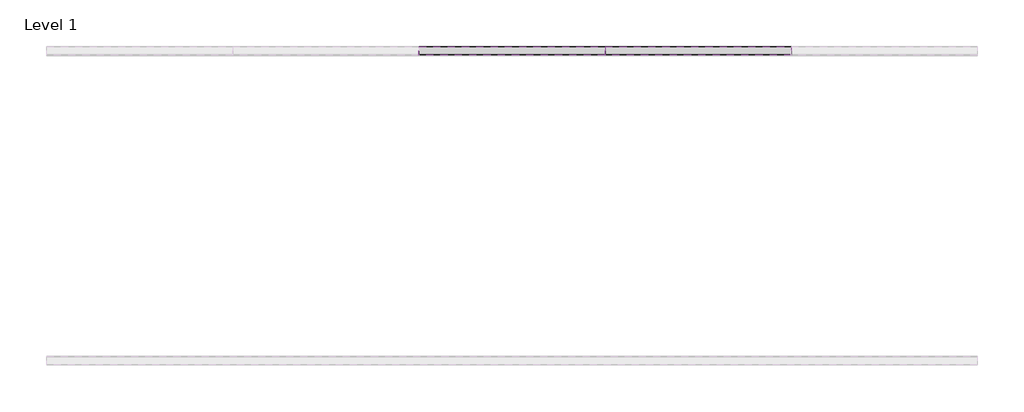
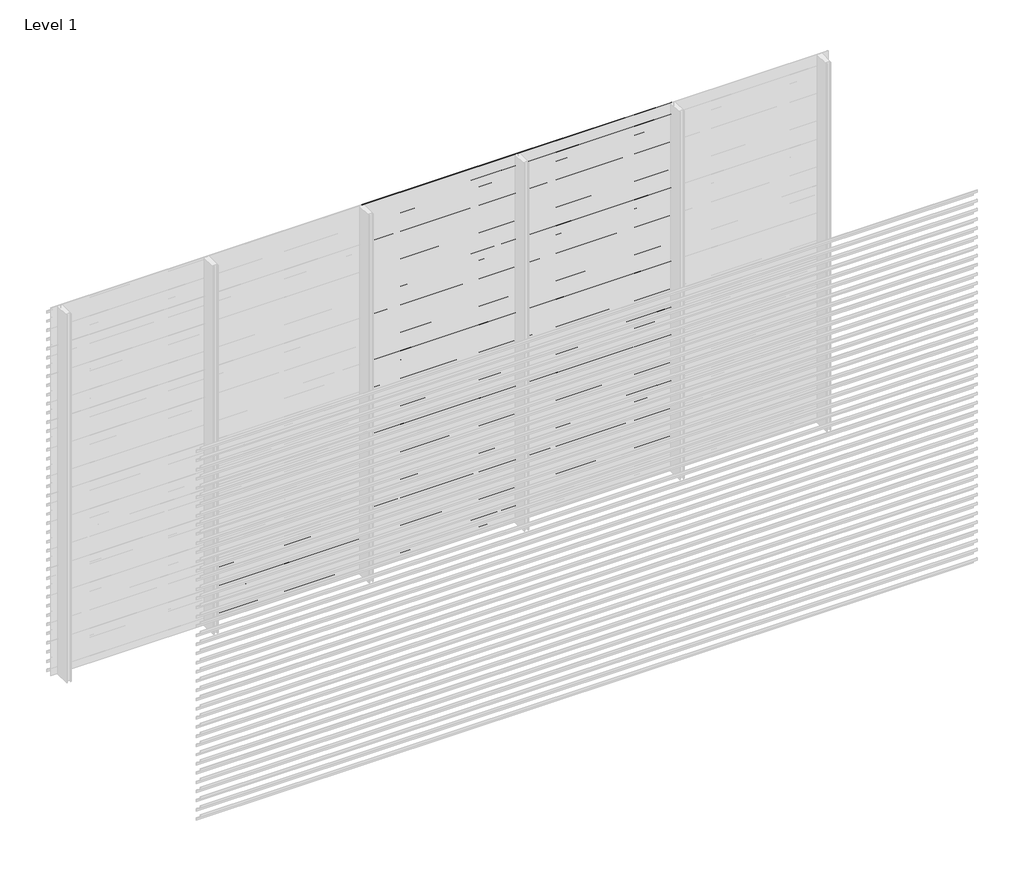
# One storey, part 12 of 55: 84 proxies.
"""IFC4 building model written with IfcOpenShell, lengths in millimetres."""

from ifc_helpers import new_model, si_unit, frame, origin, place, context, project, spatial, polyline, outline, extrude, element, save

model = new_model("IFC4")

# Units and contexts
model_context = context("Model", 3, world=origin())
ifc_project = project(units=[si_unit("LENGTHUNIT", "METRE", prefix="MILLI")], contexts=[model_context])

# Site, building, storey
site = spatial("IfcSite", under=ifc_project)
building = spatial("IfcBuilding", under=site)
storey = spatial("IfcBuildingStorey", under=building, Name="Level 1", Elevation=0.0)

# Proxies
placement = place(None, origin())
element("IfcBuildingElementProxy", 1, Name="Wall Sweeps", at=placement, inside=storey, context=model_context, shape_type="SweptSolid", body=[
    extrude(outline(polyline([(14081.0540136, 393.5), (14081.0540136, 373.5), (14079.8040136, 374.2216933), (14079.8040136, 392.7872415), (14026.0540136, 430.3158044), (14026.0540136, 450.0), (14027.3040136, 450.0), (14027.3040136, 431.0285629), (14081.0540136, 393.5)])), frame((1666.6208099, 0.0, 0.0), z_axis=(1.0, 0.0, 0.0), x_axis=(0.0, 1.0, 0.0)), (0.0, 0.0, 1.0), 1199.9999999),
])
element("IfcBuildingElementProxy", 2, Name="Wall Sweeps", at=placement, inside=storey, context=model_context, shape_type="SweptSolid", body=[
    extrude(outline(polyline([(14081.0540136, 318.5), (14081.0540136, 298.5), (14079.8040136, 299.2216933), (14079.8040136, 317.7872415), (14026.0540136, 355.3158044), (14026.0540136, 375.0), (14027.3040136, 375.0), (14027.3040136, 356.0285629), (14081.0540136, 318.5)])), frame((1666.6208099, 0.0, 0.0), z_axis=(1.0, 0.0, 0.0), x_axis=(0.0, 1.0, 0.0)), (0.0, 0.0, 1.0), 1199.9999999),
])
element("IfcBuildingElementProxy", 3, Name="Wall Sweeps", at=placement, inside=storey, context=model_context, shape_type="SweptSolid", body=[
    extrude(outline(polyline([(14081.0540136, 243.5), (14081.0540136, 223.5), (14079.8040136, 224.2216933), (14079.8040136, 242.7872415), (14026.0540136, 280.3158044), (14026.0540136, 300.0), (14027.3040136, 300.0), (14027.3040136, 281.0285629), (14081.0540136, 243.5)])), frame((1666.6208099, 0.0, 0.0), z_axis=(1.0, 0.0, 0.0), x_axis=(0.0, 1.0, 0.0)), (0.0, 0.0, 1.0), 1199.9999999),
])
element("IfcBuildingElementProxy", 4, Name="Wall Sweeps", at=placement, inside=storey, context=model_context, shape_type="SweptSolid", body=[
    extrude(outline(polyline([(14081.0540136, 168.5), (14081.0540136, 148.5), (14079.8040136, 149.2216933), (14079.8040136, 167.7872415), (14026.0540136, 205.3158044), (14026.0540136, 225.0), (14027.3040136, 225.0), (14027.3040136, 206.0285629), (14081.0540136, 168.5)])), frame((1666.6208099, 0.0, 0.0), z_axis=(1.0, 0.0, 0.0), x_axis=(0.0, 1.0, 0.0)), (0.0, 0.0, 1.0), 1199.9999999),
])
element("IfcBuildingElementProxy", 5, Name="Wall Sweeps", at=placement, inside=storey, context=model_context, shape_type="SweptSolid", body=[
    extrude(outline(polyline([(14081.0540136, 93.5), (14081.0540136, 73.5), (14079.8040136, 74.2216933), (14079.8040136, 92.7872415), (14026.0540136, 130.3158044), (14026.0540136, 150.0), (14027.3040136, 150.0), (14027.3040136, 131.0285629), (14081.0540136, 93.5)])), frame((1666.6208099, 0.0, 0.0), z_axis=(1.0, 0.0, 0.0), x_axis=(0.0, 1.0, 0.0)), (0.0, 0.0, 1.0), 1199.9999999),
])
element("IfcBuildingElementProxy", 6, Name="Wall Sweeps", at=placement, inside=storey, context=model_context, shape_type="SweptSolid", body=[
    extrude(outline(polyline([(14081.0540136, 18.5), (14081.0540136, -1.5), (14079.8040136, -0.7783067), (14079.8040136, 17.7872415), (14026.0540136, 55.3158044), (14026.0540136, 75.0), (14027.3040136, 75.0), (14027.3040136, 56.0285629), (14081.0540136, 18.5)])), frame((1666.6208099, 0.0, 0.0), z_axis=(1.0, 0.0, 0.0), x_axis=(0.0, 1.0, 0.0)), (0.0, 0.0, 1.0), 1199.9999999),
])
element("IfcBuildingElementProxy", 7, Name="Wall Sweeps", at=placement, inside=storey, context=model_context, shape_type="SweptSolid", body=[
    extrude(outline(polyline([(14081.0540136, 2943.5), (14081.0540136, 2923.5), (14079.8040136, 2924.2216933), (14079.8040136, 2942.7872415), (14026.0540136, 2980.3158044), (14026.0540136, 3000.0), (14027.3040136, 3000.0), (14027.3040136, 2981.0285629), (14081.0540136, 2943.5)])), frame((2866.6208097, 0.0, 0.0), z_axis=(1.0, 0.0, 0.0), x_axis=(0.0, 1.0, 0.0)), (0.0, 0.0, 1.0), 1199.9999999),
])
element("IfcBuildingElementProxy", 8, Name="Wall Sweeps", at=placement, inside=storey, context=model_context, shape_type="SweptSolid", body=[
    extrude(outline(polyline([(14081.0540136, 2868.5), (14081.0540136, 2848.5), (14079.8040136, 2849.2216933), (14079.8040136, 2867.7872415), (14026.0540136, 2905.3158044), (14026.0540136, 2925.0), (14027.3040136, 2925.0), (14027.3040136, 2906.0285629), (14081.0540136, 2868.5)])), frame((2866.6208097, 0.0, 0.0), z_axis=(1.0, 0.0, 0.0), x_axis=(0.0, 1.0, 0.0)), (0.0, 0.0, 1.0), 1199.9999999),
])
element("IfcBuildingElementProxy", 9, Name="Wall Sweeps", at=placement, inside=storey, context=model_context, shape_type="SweptSolid", body=[
    extrude(outline(polyline([(14081.0540136, 2793.5), (14081.0540136, 2773.5), (14079.8040136, 2774.2216933), (14079.8040136, 2792.7872415), (14026.0540136, 2830.3158044), (14026.0540136, 2850.0), (14027.3040136, 2850.0), (14027.3040136, 2831.0285629), (14081.0540136, 2793.5)])), frame((2866.6208097, 0.0, 0.0), z_axis=(1.0, 0.0, 0.0), x_axis=(0.0, 1.0, 0.0)), (0.0, 0.0, 1.0), 1199.9999999),
])
element("IfcBuildingElementProxy", 10, Name="Wall Sweeps", at=placement, inside=storey, context=model_context, shape_type="SweptSolid", body=[
    extrude(outline(polyline([(14081.0540136, 2718.5), (14081.0540136, 2698.5), (14079.8040136, 2699.2216933), (14079.8040136, 2717.7872415), (14026.0540136, 2755.3158044), (14026.0540136, 2775.0), (14027.3040136, 2775.0), (14027.3040136, 2756.0285629), (14081.0540136, 2718.5)])), frame((2866.6208097, 0.0, 0.0), z_axis=(1.0, 0.0, 0.0), x_axis=(0.0, 1.0, 0.0)), (0.0, 0.0, 1.0), 1199.9999999),
])
element("IfcBuildingElementProxy", 11, Name="Wall Sweeps", at=placement, inside=storey, context=model_context, shape_type="SweptSolid", body=[
    extrude(outline(polyline([(14081.0540136, 2643.5), (14081.0540136, 2623.5), (14079.8040136, 2624.2216933), (14079.8040136, 2642.7872415), (14026.0540136, 2680.3158044), (14026.0540136, 2700.0), (14027.3040136, 2700.0), (14027.3040136, 2681.0285629), (14081.0540136, 2643.5)])), frame((2866.6208097, 0.0, 0.0), z_axis=(1.0, 0.0, 0.0), x_axis=(0.0, 1.0, 0.0)), (0.0, 0.0, 1.0), 1199.9999999),
])
element("IfcBuildingElementProxy", 12, Name="Wall Sweeps", at=placement, inside=storey, context=model_context, shape_type="SweptSolid", body=[
    extrude(outline(polyline([(14081.0540136, 2568.5), (14081.0540136, 2548.5), (14079.8040136, 2549.2216933), (14079.8040136, 2567.7872415), (14026.0540136, 2605.3158044), (14026.0540136, 2625.0), (14027.3040136, 2625.0), (14027.3040136, 2606.0285629), (14081.0540136, 2568.5)])), frame((2866.6208097, 0.0, 0.0), z_axis=(1.0, 0.0, 0.0), x_axis=(0.0, 1.0, 0.0)), (0.0, 0.0, 1.0), 1199.9999999),
])
element("IfcBuildingElementProxy", 13, Name="Wall Sweeps", at=placement, inside=storey, context=model_context, shape_type="SweptSolid", body=[
    extrude(outline(polyline([(14081.0540136, 2493.5), (14081.0540136, 2473.5), (14079.8040136, 2474.2216933), (14079.8040136, 2492.7872415), (14026.0540136, 2530.3158044), (14026.0540136, 2550.0), (14027.3040136, 2550.0), (14027.3040136, 2531.0285629), (14081.0540136, 2493.5)])), frame((2866.6208097, 0.0, 0.0), z_axis=(1.0, 0.0, 0.0), x_axis=(0.0, 1.0, 0.0)), (0.0, 0.0, 1.0), 1199.9999999),
])
element("IfcBuildingElementProxy", 14, Name="Wall Sweeps", at=placement, inside=storey, context=model_context, shape_type="SweptSolid", body=[
    extrude(outline(polyline([(14081.0540136, 2418.5), (14081.0540136, 2398.5), (14079.8040136, 2399.2216933), (14079.8040136, 2417.7872415), (14026.0540136, 2455.3158044), (14026.0540136, 2475.0), (14027.3040136, 2475.0), (14027.3040136, 2456.0285629), (14081.0540136, 2418.5)])), frame((2866.6208097, 0.0, 0.0), z_axis=(1.0, 0.0, 0.0), x_axis=(0.0, 1.0, 0.0)), (0.0, 0.0, 1.0), 1199.9999999),
])
element("IfcBuildingElementProxy", 15, Name="Wall Sweeps", at=placement, inside=storey, context=model_context, shape_type="SweptSolid", body=[
    extrude(outline(polyline([(14081.0540136, 2343.5), (14081.0540136, 2323.5), (14079.8040136, 2324.2216933), (14079.8040136, 2342.7872415), (14026.0540136, 2380.3158044), (14026.0540136, 2400.0), (14027.3040136, 2400.0), (14027.3040136, 2381.0285629), (14081.0540136, 2343.5)])), frame((2866.6208097, 0.0, 0.0), z_axis=(1.0, 0.0, 0.0), x_axis=(0.0, 1.0, 0.0)), (0.0, 0.0, 1.0), 1199.9999999),
])
element("IfcBuildingElementProxy", 16, Name="Wall Sweeps", at=placement, inside=storey, context=model_context, shape_type="SweptSolid", body=[
    extrude(outline(polyline([(14081.0540136, 2268.5), (14081.0540136, 2248.5), (14079.8040136, 2249.2216933), (14079.8040136, 2267.7872415), (14026.0540136, 2305.3158044), (14026.0540136, 2325.0), (14027.3040136, 2325.0), (14027.3040136, 2306.0285629), (14081.0540136, 2268.5)])), frame((2866.6208097, 0.0, 0.0), z_axis=(1.0, 0.0, 0.0), x_axis=(0.0, 1.0, 0.0)), (0.0, 0.0, 1.0), 1199.9999999),
])
element("IfcBuildingElementProxy", 17, Name="Wall Sweeps", at=placement, inside=storey, context=model_context, shape_type="SweptSolid", body=[
    extrude(outline(polyline([(14081.0540136, 2193.5), (14081.0540136, 2173.5), (14079.8040136, 2174.2216933), (14079.8040136, 2192.7872415), (14026.0540136, 2230.3158044), (14026.0540136, 2250.0), (14027.3040136, 2250.0), (14027.3040136, 2231.0285629), (14081.0540136, 2193.5)])), frame((2866.6208097, 0.0, 0.0), z_axis=(1.0, 0.0, 0.0), x_axis=(0.0, 1.0, 0.0)), (0.0, 0.0, 1.0), 1199.9999999),
])
element("IfcBuildingElementProxy", 18, Name="Wall Sweeps", at=placement, inside=storey, context=model_context, shape_type="SweptSolid", body=[
    extrude(outline(polyline([(14081.0540136, 2118.5), (14081.0540136, 2098.5), (14079.8040136, 2099.2216933), (14079.8040136, 2117.7872415), (14026.0540136, 2155.3158044), (14026.0540136, 2175.0), (14027.3040136, 2175.0), (14027.3040136, 2156.0285629), (14081.0540136, 2118.5)])), frame((2866.6208097, 0.0, 0.0), z_axis=(1.0, 0.0, 0.0), x_axis=(0.0, 1.0, 0.0)), (0.0, 0.0, 1.0), 1199.9999999),
])
element("IfcBuildingElementProxy", 19, Name="Wall Sweeps", at=placement, inside=storey, context=model_context, shape_type="SweptSolid", body=[
    extrude(outline(polyline([(14081.0540136, 2043.5), (14081.0540136, 2023.5), (14079.8040136, 2024.2216933), (14079.8040136, 2042.7872415), (14026.0540136, 2080.3158044), (14026.0540136, 2100.0), (14027.3040136, 2100.0), (14027.3040136, 2081.0285629), (14081.0540136, 2043.5)])), frame((2866.6208097, 0.0, 0.0), z_axis=(1.0, 0.0, 0.0), x_axis=(0.0, 1.0, 0.0)), (0.0, 0.0, 1.0), 1199.9999999),
])
element("IfcBuildingElementProxy", 20, Name="Wall Sweeps", at=placement, inside=storey, context=model_context, shape_type="SweptSolid", body=[
    extrude(outline(polyline([(14081.0540136, 1968.5), (14081.0540136, 1948.5), (14079.8040136, 1949.2216933), (14079.8040136, 1967.7872415), (14026.0540136, 2005.3158044), (14026.0540136, 2025.0), (14027.3040136, 2025.0), (14027.3040136, 2006.0285629), (14081.0540136, 1968.5)])), frame((2866.6208097, 0.0, 0.0), z_axis=(1.0, 0.0, 0.0), x_axis=(0.0, 1.0, 0.0)), (0.0, 0.0, 1.0), 1199.9999999),
])
element("IfcBuildingElementProxy", 21, Name="Wall Sweeps", at=placement, inside=storey, context=model_context, shape_type="SweptSolid", body=[
    extrude(outline(polyline([(14081.0540136, 1893.5), (14081.0540136, 1873.5), (14079.8040136, 1874.2216933), (14079.8040136, 1892.7872415), (14026.0540136, 1930.3158044), (14026.0540136, 1950.0), (14027.3040136, 1950.0), (14027.3040136, 1931.0285629), (14081.0540136, 1893.5)])), frame((2866.6208097, 0.0, 0.0), z_axis=(1.0, 0.0, 0.0), x_axis=(0.0, 1.0, 0.0)), (0.0, 0.0, 1.0), 1199.9999999),
])
element("IfcBuildingElementProxy", 22, Name="Wall Sweeps", at=placement, inside=storey, context=model_context, shape_type="SweptSolid", body=[
    extrude(outline(polyline([(14081.0540136, 1818.5), (14081.0540136, 1798.5), (14079.8040136, 1799.2216933), (14079.8040136, 1817.7872415), (14026.0540136, 1855.3158044), (14026.0540136, 1875.0), (14027.3040136, 1875.0), (14027.3040136, 1856.0285629), (14081.0540136, 1818.5)])), frame((2866.6208097, 0.0, 0.0), z_axis=(1.0, 0.0, 0.0), x_axis=(0.0, 1.0, 0.0)), (0.0, 0.0, 1.0), 1199.9999999),
])
element("IfcBuildingElementProxy", 23, Name="Wall Sweeps", at=placement, inside=storey, context=model_context, shape_type="SweptSolid", body=[
    extrude(outline(polyline([(14081.0540136, 1743.5), (14081.0540136, 1723.5), (14079.8040136, 1724.2216933), (14079.8040136, 1742.7872415), (14026.0540136, 1780.3158044), (14026.0540136, 1800.0), (14027.3040136, 1800.0), (14027.3040136, 1781.0285629), (14081.0540136, 1743.5)])), frame((2866.6208097, 0.0, 0.0), z_axis=(1.0, 0.0, 0.0), x_axis=(0.0, 1.0, 0.0)), (0.0, 0.0, 1.0), 1199.9999999),
])
element("IfcBuildingElementProxy", 24, Name="Wall Sweeps", at=placement, inside=storey, context=model_context, shape_type="SweptSolid", body=[
    extrude(outline(polyline([(14081.0540136, 1668.5), (14081.0540136, 1648.5), (14079.8040136, 1649.2216933), (14079.8040136, 1667.7872415), (14026.0540136, 1705.3158044), (14026.0540136, 1725.0), (14027.3040136, 1725.0), (14027.3040136, 1706.0285629), (14081.0540136, 1668.5)])), frame((2866.6208097, 0.0, 0.0), z_axis=(1.0, 0.0, 0.0), x_axis=(0.0, 1.0, 0.0)), (0.0, 0.0, 1.0), 1199.9999999),
])
element("IfcBuildingElementProxy", 25, Name="Wall Sweeps", at=placement, inside=storey, context=model_context, shape_type="SweptSolid", body=[
    extrude(outline(polyline([(14081.0540136, 1593.5), (14081.0540136, 1573.5), (14079.8040136, 1574.2216933), (14079.8040136, 1592.7872415), (14026.0540136, 1630.3158044), (14026.0540136, 1650.0), (14027.3040136, 1650.0), (14027.3040136, 1631.0285629), (14081.0540136, 1593.5)])), frame((2866.6208097, 0.0, 0.0), z_axis=(1.0, 0.0, 0.0), x_axis=(0.0, 1.0, 0.0)), (0.0, 0.0, 1.0), 1199.9999999),
])
element("IfcBuildingElementProxy", 26, Name="Wall Sweeps", at=placement, inside=storey, context=model_context, shape_type="SweptSolid", body=[
    extrude(outline(polyline([(14081.0540136, 1518.5), (14081.0540136, 1498.5), (14079.8040136, 1499.2216933), (14079.8040136, 1517.7872415), (14026.0540136, 1555.3158044), (14026.0540136, 1575.0), (14027.3040136, 1575.0), (14027.3040136, 1556.0285629), (14081.0540136, 1518.5)])), frame((2866.6208097, 0.0, 0.0), z_axis=(1.0, 0.0, 0.0), x_axis=(0.0, 1.0, 0.0)), (0.0, 0.0, 1.0), 1199.9999999),
])
element("IfcBuildingElementProxy", 27, Name="Wall Sweeps", at=placement, inside=storey, context=model_context, shape_type="SweptSolid", body=[
    extrude(outline(polyline([(14081.0540136, 1443.5), (14081.0540136, 1423.5), (14079.8040136, 1424.2216933), (14079.8040136, 1442.7872415), (14026.0540136, 1480.3158044), (14026.0540136, 1500.0), (14027.3040136, 1500.0), (14027.3040136, 1481.0285629), (14081.0540136, 1443.5)])), frame((2866.6208097, 0.0, 0.0), z_axis=(1.0, 0.0, 0.0), x_axis=(0.0, 1.0, 0.0)), (0.0, 0.0, 1.0), 1199.9999999),
])
element("IfcBuildingElementProxy", 28, Name="Wall Sweeps", at=placement, inside=storey, context=model_context, shape_type="SweptSolid", body=[
    extrude(outline(polyline([(14081.0540136, 1368.5), (14081.0540136, 1348.5), (14079.8040136, 1349.2216933), (14079.8040136, 1367.7872415), (14026.0540136, 1405.3158044), (14026.0540136, 1425.0), (14027.3040136, 1425.0), (14027.3040136, 1406.0285629), (14081.0540136, 1368.5)])), frame((2866.6208097, 0.0, 0.0), z_axis=(1.0, 0.0, 0.0), x_axis=(0.0, 1.0, 0.0)), (0.0, 0.0, 1.0), 1199.9999999),
])
element("IfcBuildingElementProxy", 29, Name="Wall Sweeps", at=placement, inside=storey, context=model_context, shape_type="SweptSolid", body=[
    extrude(outline(polyline([(14081.0540136, 1293.5), (14081.0540136, 1273.5), (14079.8040136, 1274.2216933), (14079.8040136, 1292.7872415), (14026.0540136, 1330.3158044), (14026.0540136, 1350.0), (14027.3040136, 1350.0), (14027.3040136, 1331.0285629), (14081.0540136, 1293.5)])), frame((2866.6208097, 0.0, 0.0), z_axis=(1.0, 0.0, 0.0), x_axis=(0.0, 1.0, 0.0)), (0.0, 0.0, 1.0), 1199.9999999),
])
element("IfcBuildingElementProxy", 30, Name="Wall Sweeps", at=placement, inside=storey, context=model_context, shape_type="SweptSolid", body=[
    extrude(outline(polyline([(14081.0540136, 1218.5), (14081.0540136, 1198.5), (14079.8040136, 1199.2216933), (14079.8040136, 1217.7872415), (14026.0540136, 1255.3158044), (14026.0540136, 1275.0), (14027.3040136, 1275.0), (14027.3040136, 1256.0285629), (14081.0540136, 1218.5)])), frame((2866.6208097, 0.0, 0.0), z_axis=(1.0, 0.0, 0.0), x_axis=(0.0, 1.0, 0.0)), (0.0, 0.0, 1.0), 1199.9999999),
])
element("IfcBuildingElementProxy", 31, Name="Wall Sweeps", at=placement, inside=storey, context=model_context, shape_type="SweptSolid", body=[
    extrude(outline(polyline([(14081.0540136, 1143.5), (14081.0540136, 1123.5), (14079.8040136, 1124.2216933), (14079.8040136, 1142.7872415), (14026.0540136, 1180.3158044), (14026.0540136, 1200.0), (14027.3040136, 1200.0), (14027.3040136, 1181.0285629), (14081.0540136, 1143.5)])), frame((2866.6208097, 0.0, 0.0), z_axis=(1.0, 0.0, 0.0), x_axis=(0.0, 1.0, 0.0)), (0.0, 0.0, 1.0), 1199.9999999),
])
element("IfcBuildingElementProxy", 32, Name="Wall Sweeps", at=placement, inside=storey, context=model_context, shape_type="SweptSolid", body=[
    extrude(outline(polyline([(14081.0540136, 1068.5), (14081.0540136, 1048.5), (14079.8040136, 1049.2216933), (14079.8040136, 1067.7872415), (14026.0540136, 1105.3158044), (14026.0540136, 1125.0), (14027.3040136, 1125.0), (14027.3040136, 1106.0285629), (14081.0540136, 1068.5)])), frame((2866.6208097, 0.0, 0.0), z_axis=(1.0, 0.0, 0.0), x_axis=(0.0, 1.0, 0.0)), (0.0, 0.0, 1.0), 1199.9999999),
])
element("IfcBuildingElementProxy", 33, Name="Wall Sweeps", at=placement, inside=storey, context=model_context, shape_type="SweptSolid", body=[
    extrude(outline(polyline([(14081.0540136, 993.5), (14081.0540136, 973.5), (14079.8040136, 974.2216933), (14079.8040136, 992.7872415), (14026.0540136, 1030.3158044), (14026.0540136, 1050.0), (14027.3040136, 1050.0), (14027.3040136, 1031.0285629), (14081.0540136, 993.5)])), frame((2866.6208097, 0.0, 0.0), z_axis=(1.0, 0.0, 0.0), x_axis=(0.0, 1.0, 0.0)), (0.0, 0.0, 1.0), 1199.9999999),
])
element("IfcBuildingElementProxy", 34, Name="Wall Sweeps", at=placement, inside=storey, context=model_context, shape_type="SweptSolid", body=[
    extrude(outline(polyline([(14081.0540136, 918.5), (14081.0540136, 898.5), (14079.8040136, 899.2216933), (14079.8040136, 917.7872415), (14026.0540136, 955.3158044), (14026.0540136, 975.0), (14027.3040136, 975.0), (14027.3040136, 956.0285629), (14081.0540136, 918.5)])), frame((2866.6208097, 0.0, 0.0), z_axis=(1.0, 0.0, 0.0), x_axis=(0.0, 1.0, 0.0)), (0.0, 0.0, 1.0), 1199.9999999),
])
element("IfcBuildingElementProxy", 35, Name="Wall Sweeps", at=placement, inside=storey, context=model_context, shape_type="SweptSolid", body=[
    extrude(outline(polyline([(14081.0540136, 843.5), (14081.0540136, 823.5), (14079.8040136, 824.2216933), (14079.8040136, 842.7872415), (14026.0540136, 880.3158044), (14026.0540136, 900.0), (14027.3040136, 900.0), (14027.3040136, 881.0285629), (14081.0540136, 843.5)])), frame((2866.6208097, 0.0, 0.0), z_axis=(1.0, 0.0, 0.0), x_axis=(0.0, 1.0, 0.0)), (0.0, 0.0, 1.0), 1199.9999999),
])
element("IfcBuildingElementProxy", 36, Name="Wall Sweeps", at=placement, inside=storey, context=model_context, shape_type="SweptSolid", body=[
    extrude(outline(polyline([(14081.0540136, 768.5), (14081.0540136, 748.5), (14079.8040136, 749.2216933), (14079.8040136, 767.7872415), (14026.0540136, 805.3158044), (14026.0540136, 825.0), (14027.3040136, 825.0), (14027.3040136, 806.0285629), (14081.0540136, 768.5)])), frame((2866.6208097, 0.0, 0.0), z_axis=(1.0, 0.0, 0.0), x_axis=(0.0, 1.0, 0.0)), (0.0, 0.0, 1.0), 1199.9999999),
])
element("IfcBuildingElementProxy", 37, Name="Wall Sweeps", at=placement, inside=storey, context=model_context, shape_type="SweptSolid", body=[
    extrude(outline(polyline([(14081.0540136, 693.5), (14081.0540136, 673.5), (14079.8040136, 674.2216933), (14079.8040136, 692.7872415), (14026.0540136, 730.3158044), (14026.0540136, 750.0), (14027.3040136, 750.0), (14027.3040136, 731.0285629), (14081.0540136, 693.5)])), frame((2866.6208097, 0.0, 0.0), z_axis=(1.0, 0.0, 0.0), x_axis=(0.0, 1.0, 0.0)), (0.0, 0.0, 1.0), 1199.9999999),
])
element("IfcBuildingElementProxy", 38, Name="Wall Sweeps", at=placement, inside=storey, context=model_context, shape_type="SweptSolid", body=[
    extrude(outline(polyline([(14081.0540136, 618.5), (14081.0540136, 598.5), (14079.8040136, 599.2216933), (14079.8040136, 617.7872415), (14026.0540136, 655.3158044), (14026.0540136, 675.0), (14027.3040136, 675.0), (14027.3040136, 656.0285629), (14081.0540136, 618.5)])), frame((2866.6208097, 0.0, 0.0), z_axis=(1.0, 0.0, 0.0), x_axis=(0.0, 1.0, 0.0)), (0.0, 0.0, 1.0), 1199.9999999),
])
element("IfcBuildingElementProxy", 39, Name="Wall Sweeps", at=placement, inside=storey, context=model_context, shape_type="SweptSolid", body=[
    extrude(outline(polyline([(14081.0540136, 543.5), (14081.0540136, 523.5), (14079.8040136, 524.2216933), (14079.8040136, 542.7872415), (14026.0540136, 580.3158044), (14026.0540136, 600.0), (14027.3040136, 600.0), (14027.3040136, 581.0285629), (14081.0540136, 543.5)])), frame((2866.6208097, 0.0, 0.0), z_axis=(1.0, 0.0, 0.0), x_axis=(0.0, 1.0, 0.0)), (0.0, 0.0, 1.0), 1199.9999999),
])
element("IfcBuildingElementProxy", 40, Name="Wall Sweeps", at=placement, inside=storey, context=model_context, shape_type="SweptSolid", body=[
    extrude(outline(polyline([(14081.0540136, 468.5), (14081.0540136, 448.5), (14079.8040136, 449.2216933), (14079.8040136, 467.7872415), (14026.0540136, 505.3158044), (14026.0540136, 525.0), (14027.3040136, 525.0), (14027.3040136, 506.0285629), (14081.0540136, 468.5)])), frame((2866.6208097, 0.0, 0.0), z_axis=(1.0, 0.0, 0.0), x_axis=(0.0, 1.0, 0.0)), (0.0, 0.0, 1.0), 1199.9999999),
])
element("IfcBuildingElementProxy", 41, Name="Wall Sweeps", at=placement, inside=storey, context=model_context, shape_type="SweptSolid", body=[
    extrude(outline(polyline([(14081.0540136, 393.5), (14081.0540136, 373.5), (14079.8040136, 374.2216933), (14079.8040136, 392.7872415), (14026.0540136, 430.3158044), (14026.0540136, 450.0), (14027.3040136, 450.0), (14027.3040136, 431.0285629), (14081.0540136, 393.5)])), frame((2866.6208097, 0.0, 0.0), z_axis=(1.0, 0.0, 0.0), x_axis=(0.0, 1.0, 0.0)), (0.0, 0.0, 1.0), 1199.9999999),
])
element("IfcBuildingElementProxy", 42, Name="Wall Sweeps", at=placement, inside=storey, context=model_context, shape_type="SweptSolid", body=[
    extrude(outline(polyline([(14081.0540136, 318.5), (14081.0540136, 298.5), (14079.8040136, 299.2216933), (14079.8040136, 317.7872415), (14026.0540136, 355.3158044), (14026.0540136, 375.0), (14027.3040136, 375.0), (14027.3040136, 356.0285629), (14081.0540136, 318.5)])), frame((2866.6208097, 0.0, 0.0), z_axis=(1.0, 0.0, 0.0), x_axis=(0.0, 1.0, 0.0)), (0.0, 0.0, 1.0), 1199.9999999),
])
element("IfcBuildingElementProxy", 43, Name="Wall Sweeps", at=placement, inside=storey, context=model_context, shape_type="SweptSolid", body=[
    extrude(outline(polyline([(14081.0540136, 243.5), (14081.0540136, 223.5), (14079.8040136, 224.2216933), (14079.8040136, 242.7872415), (14026.0540136, 280.3158044), (14026.0540136, 300.0), (14027.3040136, 300.0), (14027.3040136, 281.0285629), (14081.0540136, 243.5)])), frame((2866.6208097, 0.0, 0.0), z_axis=(1.0, 0.0, 0.0), x_axis=(0.0, 1.0, 0.0)), (0.0, 0.0, 1.0), 1199.9999999),
])
element("IfcBuildingElementProxy", 44, Name="Wall Sweeps", at=placement, inside=storey, context=model_context, shape_type="SweptSolid", body=[
    extrude(outline(polyline([(14081.0540136, 168.5), (14081.0540136, 148.5), (14079.8040136, 149.2216933), (14079.8040136, 167.7872415), (14026.0540136, 205.3158044), (14026.0540136, 225.0), (14027.3040136, 225.0), (14027.3040136, 206.0285629), (14081.0540136, 168.5)])), frame((2866.6208097, 0.0, 0.0), z_axis=(1.0, 0.0, 0.0), x_axis=(0.0, 1.0, 0.0)), (0.0, 0.0, 1.0), 1199.9999999),
])
element("IfcBuildingElementProxy", 45, Name="Wall Sweeps", at=placement, inside=storey, context=model_context, shape_type="SweptSolid", body=[
    extrude(outline(polyline([(14081.0540136, 93.5), (14081.0540136, 73.5), (14079.8040136, 74.2216933), (14079.8040136, 92.7872415), (14026.0540136, 130.3158044), (14026.0540136, 150.0), (14027.3040136, 150.0), (14027.3040136, 131.0285629), (14081.0540136, 93.5)])), frame((2866.6208097, 0.0, 0.0), z_axis=(1.0, 0.0, 0.0), x_axis=(0.0, 1.0, 0.0)), (0.0, 0.0, 1.0), 1199.9999999),
])
element("IfcBuildingElementProxy", 46, Name="Wall Sweeps", at=placement, inside=storey, context=model_context, shape_type="SweptSolid", body=[
    extrude(outline(polyline([(14081.0540136, 18.5), (14081.0540136, -1.5), (14079.8040136, -0.7783067), (14079.8040136, 17.7872415), (14026.0540136, 55.3158044), (14026.0540136, 75.0), (14027.3040136, 75.0), (14027.3040136, 56.0285629), (14081.0540136, 18.5)])), frame((2866.6208097, 0.0, 0.0), z_axis=(1.0, 0.0, 0.0), x_axis=(0.0, 1.0, 0.0)), (0.0, 0.0, 1.0), 1199.9999999),
])
element("IfcBuildingElementProxy", 47, Name="Wall Sweeps", at=placement, inside=storey, context=model_context, shape_type="SweptSolid", body=[
    extrude(outline(polyline([(14081.0540136, 2943.5), (14081.0540136, 2923.5), (14079.8040136, 2924.2216933), (14079.8040136, 2942.7872415), (14026.0540136, 2980.3158044), (14026.0540136, 3000.0), (14027.3040136, 3000.0), (14027.3040136, 2981.0285629), (14081.0540136, 2943.5)])), frame((4066.6208096, 0.0, 0.0), z_axis=(1.0, 0.0, 0.0), x_axis=(0.0, 1.0, 0.0)), (0.0, 0.0, 1.0), 1199.9999999),
])
element("IfcBuildingElementProxy", 48, Name="Wall Sweeps", at=placement, inside=storey, context=model_context, shape_type="SweptSolid", body=[
    extrude(outline(polyline([(14081.0540136, 2868.5), (14081.0540136, 2848.5), (14079.8040136, 2849.2216933), (14079.8040136, 2867.7872415), (14026.0540136, 2905.3158044), (14026.0540136, 2925.0), (14027.3040136, 2925.0), (14027.3040136, 2906.0285629), (14081.0540136, 2868.5)])), frame((4066.6208096, 0.0, 0.0), z_axis=(1.0, 0.0, 0.0), x_axis=(0.0, 1.0, 0.0)), (0.0, 0.0, 1.0), 1199.9999999),
])
element("IfcBuildingElementProxy", 49, Name="Wall Sweeps", at=placement, inside=storey, context=model_context, shape_type="SweptSolid", body=[
    extrude(outline(polyline([(14081.0540136, 2793.5), (14081.0540136, 2773.5), (14079.8040136, 2774.2216933), (14079.8040136, 2792.7872415), (14026.0540136, 2830.3158044), (14026.0540136, 2850.0), (14027.3040136, 2850.0), (14027.3040136, 2831.0285629), (14081.0540136, 2793.5)])), frame((4066.6208096, 0.0, 0.0), z_axis=(1.0, 0.0, 0.0), x_axis=(0.0, 1.0, 0.0)), (0.0, 0.0, 1.0), 1199.9999999),
])
element("IfcBuildingElementProxy", 50, Name="Wall Sweeps", at=placement, inside=storey, context=model_context, shape_type="SweptSolid", body=[
    extrude(outline(polyline([(14081.0540136, 2718.5), (14081.0540136, 2698.5), (14079.8040136, 2699.2216933), (14079.8040136, 2717.7872415), (14026.0540136, 2755.3158044), (14026.0540136, 2775.0), (14027.3040136, 2775.0), (14027.3040136, 2756.0285629), (14081.0540136, 2718.5)])), frame((4066.6208096, 0.0, 0.0), z_axis=(1.0, 0.0, 0.0), x_axis=(0.0, 1.0, 0.0)), (0.0, 0.0, 1.0), 1199.9999999),
])
element("IfcBuildingElementProxy", 51, Name="Wall Sweeps", at=placement, inside=storey, context=model_context, shape_type="SweptSolid", body=[
    extrude(outline(polyline([(14081.0540136, 2643.5), (14081.0540136, 2623.5), (14079.8040136, 2624.2216933), (14079.8040136, 2642.7872415), (14026.0540136, 2680.3158044), (14026.0540136, 2700.0), (14027.3040136, 2700.0), (14027.3040136, 2681.0285629), (14081.0540136, 2643.5)])), frame((4066.6208096, 0.0, 0.0), z_axis=(1.0, 0.0, 0.0), x_axis=(0.0, 1.0, 0.0)), (0.0, 0.0, 1.0), 1199.9999999),
])
element("IfcBuildingElementProxy", 52, Name="Wall Sweeps", at=placement, inside=storey, context=model_context, shape_type="SweptSolid", body=[
    extrude(outline(polyline([(14081.0540136, 2568.5), (14081.0540136, 2548.5), (14079.8040136, 2549.2216933), (14079.8040136, 2567.7872415), (14026.0540136, 2605.3158044), (14026.0540136, 2625.0), (14027.3040136, 2625.0), (14027.3040136, 2606.0285629), (14081.0540136, 2568.5)])), frame((4066.6208096, 0.0, 0.0), z_axis=(1.0, 0.0, 0.0), x_axis=(0.0, 1.0, 0.0)), (0.0, 0.0, 1.0), 1199.9999999),
])
element("IfcBuildingElementProxy", 53, Name="Wall Sweeps", at=placement, inside=storey, context=model_context, shape_type="SweptSolid", body=[
    extrude(outline(polyline([(14081.0540136, 2493.5), (14081.0540136, 2473.5), (14079.8040136, 2474.2216933), (14079.8040136, 2492.7872415), (14026.0540136, 2530.3158044), (14026.0540136, 2550.0), (14027.3040136, 2550.0), (14027.3040136, 2531.0285629), (14081.0540136, 2493.5)])), frame((4066.6208096, 0.0, 0.0), z_axis=(1.0, 0.0, 0.0), x_axis=(0.0, 1.0, 0.0)), (0.0, 0.0, 1.0), 1199.9999999),
])
element("IfcBuildingElementProxy", 54, Name="Wall Sweeps", at=placement, inside=storey, context=model_context, shape_type="SweptSolid", body=[
    extrude(outline(polyline([(14081.0540136, 2418.5), (14081.0540136, 2398.5), (14079.8040136, 2399.2216933), (14079.8040136, 2417.7872415), (14026.0540136, 2455.3158044), (14026.0540136, 2475.0), (14027.3040136, 2475.0), (14027.3040136, 2456.0285629), (14081.0540136, 2418.5)])), frame((4066.6208096, 0.0, 0.0), z_axis=(1.0, 0.0, 0.0), x_axis=(0.0, 1.0, 0.0)), (0.0, 0.0, 1.0), 1199.9999999),
])
element("IfcBuildingElementProxy", 55, Name="Wall Sweeps", at=placement, inside=storey, context=model_context, shape_type="SweptSolid", body=[
    extrude(outline(polyline([(14081.0540136, 2343.5), (14081.0540136, 2323.5), (14079.8040136, 2324.2216933), (14079.8040136, 2342.7872415), (14026.0540136, 2380.3158044), (14026.0540136, 2400.0), (14027.3040136, 2400.0), (14027.3040136, 2381.0285629), (14081.0540136, 2343.5)])), frame((4066.6208096, 0.0, 0.0), z_axis=(1.0, 0.0, 0.0), x_axis=(0.0, 1.0, 0.0)), (0.0, 0.0, 1.0), 1199.9999999),
])
element("IfcBuildingElementProxy", 56, Name="Wall Sweeps", at=placement, inside=storey, context=model_context, shape_type="SweptSolid", body=[
    extrude(outline(polyline([(14081.0540136, 2268.5), (14081.0540136, 2248.5), (14079.8040136, 2249.2216933), (14079.8040136, 2267.7872415), (14026.0540136, 2305.3158044), (14026.0540136, 2325.0), (14027.3040136, 2325.0), (14027.3040136, 2306.0285629), (14081.0540136, 2268.5)])), frame((4066.6208096, 0.0, 0.0), z_axis=(1.0, 0.0, 0.0), x_axis=(0.0, 1.0, 0.0)), (0.0, 0.0, 1.0), 1199.9999999),
])
element("IfcBuildingElementProxy", 57, Name="Wall Sweeps", at=placement, inside=storey, context=model_context, shape_type="SweptSolid", body=[
    extrude(outline(polyline([(14081.0540136, 2193.5), (14081.0540136, 2173.5), (14079.8040136, 2174.2216933), (14079.8040136, 2192.7872415), (14026.0540136, 2230.3158044), (14026.0540136, 2250.0), (14027.3040136, 2250.0), (14027.3040136, 2231.0285629), (14081.0540136, 2193.5)])), frame((4066.6208096, 0.0, 0.0), z_axis=(1.0, 0.0, 0.0), x_axis=(0.0, 1.0, 0.0)), (0.0, 0.0, 1.0), 1199.9999999),
])
element("IfcBuildingElementProxy", 58, Name="Wall Sweeps", at=placement, inside=storey, context=model_context, shape_type="SweptSolid", body=[
    extrude(outline(polyline([(14081.0540136, 2118.5), (14081.0540136, 2098.5), (14079.8040136, 2099.2216933), (14079.8040136, 2117.7872415), (14026.0540136, 2155.3158044), (14026.0540136, 2175.0), (14027.3040136, 2175.0), (14027.3040136, 2156.0285629), (14081.0540136, 2118.5)])), frame((4066.6208096, 0.0, 0.0), z_axis=(1.0, 0.0, 0.0), x_axis=(0.0, 1.0, 0.0)), (0.0, 0.0, 1.0), 1199.9999999),
])
element("IfcBuildingElementProxy", 59, Name="Wall Sweeps", at=placement, inside=storey, context=model_context, shape_type="SweptSolid", body=[
    extrude(outline(polyline([(14081.0540136, 2043.5), (14081.0540136, 2023.5), (14079.8040136, 2024.2216933), (14079.8040136, 2042.7872415), (14026.0540136, 2080.3158044), (14026.0540136, 2100.0), (14027.3040136, 2100.0), (14027.3040136, 2081.0285629), (14081.0540136, 2043.5)])), frame((4066.6208096, 0.0, 0.0), z_axis=(1.0, 0.0, 0.0), x_axis=(0.0, 1.0, 0.0)), (0.0, 0.0, 1.0), 1199.9999999),
])
element("IfcBuildingElementProxy", 60, Name="Wall Sweeps", at=placement, inside=storey, context=model_context, shape_type="SweptSolid", body=[
    extrude(outline(polyline([(14081.0540136, 1968.5), (14081.0540136, 1948.5), (14079.8040136, 1949.2216933), (14079.8040136, 1967.7872415), (14026.0540136, 2005.3158044), (14026.0540136, 2025.0), (14027.3040136, 2025.0), (14027.3040136, 2006.0285629), (14081.0540136, 1968.5)])), frame((4066.6208096, 0.0, 0.0), z_axis=(1.0, 0.0, 0.0), x_axis=(0.0, 1.0, 0.0)), (0.0, 0.0, 1.0), 1199.9999999),
])
element("IfcBuildingElementProxy", 61, Name="Wall Sweeps", at=placement, inside=storey, context=model_context, shape_type="SweptSolid", body=[
    extrude(outline(polyline([(14081.0540136, 1893.5), (14081.0540136, 1873.5), (14079.8040136, 1874.2216933), (14079.8040136, 1892.7872415), (14026.0540136, 1930.3158044), (14026.0540136, 1950.0), (14027.3040136, 1950.0), (14027.3040136, 1931.0285629), (14081.0540136, 1893.5)])), frame((4066.6208096, 0.0, 0.0), z_axis=(1.0, 0.0, 0.0), x_axis=(0.0, 1.0, 0.0)), (0.0, 0.0, 1.0), 1199.9999999),
])
element("IfcBuildingElementProxy", 62, Name="Wall Sweeps", at=placement, inside=storey, context=model_context, shape_type="SweptSolid", body=[
    extrude(outline(polyline([(14081.0540136, 1818.5), (14081.0540136, 1798.5), (14079.8040136, 1799.2216933), (14079.8040136, 1817.7872415), (14026.0540136, 1855.3158044), (14026.0540136, 1875.0), (14027.3040136, 1875.0), (14027.3040136, 1856.0285629), (14081.0540136, 1818.5)])), frame((4066.6208096, 0.0, 0.0), z_axis=(1.0, 0.0, 0.0), x_axis=(0.0, 1.0, 0.0)), (0.0, 0.0, 1.0), 1199.9999999),
])
element("IfcBuildingElementProxy", 63, Name="Wall Sweeps", at=placement, inside=storey, context=model_context, shape_type="SweptSolid", body=[
    extrude(outline(polyline([(14081.0540136, 1743.5), (14081.0540136, 1723.5), (14079.8040136, 1724.2216933), (14079.8040136, 1742.7872415), (14026.0540136, 1780.3158044), (14026.0540136, 1800.0), (14027.3040136, 1800.0), (14027.3040136, 1781.0285629), (14081.0540136, 1743.5)])), frame((4066.6208096, 0.0, 0.0), z_axis=(1.0, 0.0, 0.0), x_axis=(0.0, 1.0, 0.0)), (0.0, 0.0, 1.0), 1199.9999999),
])
element("IfcBuildingElementProxy", 64, Name="Wall Sweeps", at=placement, inside=storey, context=model_context, shape_type="SweptSolid", body=[
    extrude(outline(polyline([(14081.0540136, 1668.5), (14081.0540136, 1648.5), (14079.8040136, 1649.2216933), (14079.8040136, 1667.7872415), (14026.0540136, 1705.3158044), (14026.0540136, 1725.0), (14027.3040136, 1725.0), (14027.3040136, 1706.0285629), (14081.0540136, 1668.5)])), frame((4066.6208096, 0.0, 0.0), z_axis=(1.0, 0.0, 0.0), x_axis=(0.0, 1.0, 0.0)), (0.0, 0.0, 1.0), 1199.9999999),
])
element("IfcBuildingElementProxy", 65, Name="Wall Sweeps", at=placement, inside=storey, context=model_context, shape_type="SweptSolid", body=[
    extrude(outline(polyline([(14081.0540136, 1593.5), (14081.0540136, 1573.5), (14079.8040136, 1574.2216933), (14079.8040136, 1592.7872415), (14026.0540136, 1630.3158044), (14026.0540136, 1650.0), (14027.3040136, 1650.0), (14027.3040136, 1631.0285629), (14081.0540136, 1593.5)])), frame((4066.6208096, 0.0, 0.0), z_axis=(1.0, 0.0, 0.0), x_axis=(0.0, 1.0, 0.0)), (0.0, 0.0, 1.0), 1199.9999999),
])
element("IfcBuildingElementProxy", 66, Name="Wall Sweeps", at=placement, inside=storey, context=model_context, shape_type="SweptSolid", body=[
    extrude(outline(polyline([(14081.0540136, 1518.5), (14081.0540136, 1498.5), (14079.8040136, 1499.2216933), (14079.8040136, 1517.7872415), (14026.0540136, 1555.3158044), (14026.0540136, 1575.0), (14027.3040136, 1575.0), (14027.3040136, 1556.0285629), (14081.0540136, 1518.5)])), frame((4066.6208096, 0.0, 0.0), z_axis=(1.0, 0.0, 0.0), x_axis=(0.0, 1.0, 0.0)), (0.0, 0.0, 1.0), 1199.9999999),
])
element("IfcBuildingElementProxy", 67, Name="Wall Sweeps", at=placement, inside=storey, context=model_context, shape_type="SweptSolid", body=[
    extrude(outline(polyline([(14081.0540136, 1443.5), (14081.0540136, 1423.5), (14079.8040136, 1424.2216933), (14079.8040136, 1442.7872415), (14026.0540136, 1480.3158044), (14026.0540136, 1500.0), (14027.3040136, 1500.0), (14027.3040136, 1481.0285629), (14081.0540136, 1443.5)])), frame((4066.6208096, 0.0, 0.0), z_axis=(1.0, 0.0, 0.0), x_axis=(0.0, 1.0, 0.0)), (0.0, 0.0, 1.0), 1199.9999999),
])
element("IfcBuildingElementProxy", 68, Name="Wall Sweeps", at=placement, inside=storey, context=model_context, shape_type="SweptSolid", body=[
    extrude(outline(polyline([(14081.0540136, 1368.5), (14081.0540136, 1348.5), (14079.8040136, 1349.2216933), (14079.8040136, 1367.7872415), (14026.0540136, 1405.3158044), (14026.0540136, 1425.0), (14027.3040136, 1425.0), (14027.3040136, 1406.0285629), (14081.0540136, 1368.5)])), frame((4066.6208096, 0.0, 0.0), z_axis=(1.0, 0.0, 0.0), x_axis=(0.0, 1.0, 0.0)), (0.0, 0.0, 1.0), 1199.9999999),
])
element("IfcBuildingElementProxy", 69, Name="Wall Sweeps", at=placement, inside=storey, context=model_context, shape_type="SweptSolid", body=[
    extrude(outline(polyline([(14081.0540136, 1293.5), (14081.0540136, 1273.5), (14079.8040136, 1274.2216933), (14079.8040136, 1292.7872415), (14026.0540136, 1330.3158044), (14026.0540136, 1350.0), (14027.3040136, 1350.0), (14027.3040136, 1331.0285629), (14081.0540136, 1293.5)])), frame((4066.6208096, 0.0, 0.0), z_axis=(1.0, 0.0, 0.0), x_axis=(0.0, 1.0, 0.0)), (0.0, 0.0, 1.0), 1199.9999999),
])
element("IfcBuildingElementProxy", 70, Name="Wall Sweeps", at=placement, inside=storey, context=model_context, shape_type="SweptSolid", body=[
    extrude(outline(polyline([(14081.0540136, 1218.5), (14081.0540136, 1198.5), (14079.8040136, 1199.2216933), (14079.8040136, 1217.7872415), (14026.0540136, 1255.3158044), (14026.0540136, 1275.0), (14027.3040136, 1275.0), (14027.3040136, 1256.0285629), (14081.0540136, 1218.5)])), frame((4066.6208096, 0.0, 0.0), z_axis=(1.0, 0.0, 0.0), x_axis=(0.0, 1.0, 0.0)), (0.0, 0.0, 1.0), 1199.9999999),
])
element("IfcBuildingElementProxy", 71, Name="Wall Sweeps", at=placement, inside=storey, context=model_context, shape_type="SweptSolid", body=[
    extrude(outline(polyline([(14081.0540136, 1143.5), (14081.0540136, 1123.5), (14079.8040136, 1124.2216933), (14079.8040136, 1142.7872415), (14026.0540136, 1180.3158044), (14026.0540136, 1200.0), (14027.3040136, 1200.0), (14027.3040136, 1181.0285629), (14081.0540136, 1143.5)])), frame((4066.6208096, 0.0, 0.0), z_axis=(1.0, 0.0, 0.0), x_axis=(0.0, 1.0, 0.0)), (0.0, 0.0, 1.0), 1199.9999999),
])
element("IfcBuildingElementProxy", 72, Name="Wall Sweeps", at=placement, inside=storey, context=model_context, shape_type="SweptSolid", body=[
    extrude(outline(polyline([(14081.0540136, 1068.5), (14081.0540136, 1048.5), (14079.8040136, 1049.2216933), (14079.8040136, 1067.7872415), (14026.0540136, 1105.3158044), (14026.0540136, 1125.0), (14027.3040136, 1125.0), (14027.3040136, 1106.0285629), (14081.0540136, 1068.5)])), frame((4066.6208096, 0.0, 0.0), z_axis=(1.0, 0.0, 0.0), x_axis=(0.0, 1.0, 0.0)), (0.0, 0.0, 1.0), 1199.9999999),
])
element("IfcBuildingElementProxy", 73, Name="Wall Sweeps", at=placement, inside=storey, context=model_context, shape_type="SweptSolid", body=[
    extrude(outline(polyline([(14081.0540136, 993.5), (14081.0540136, 973.5), (14079.8040136, 974.2216933), (14079.8040136, 992.7872415), (14026.0540136, 1030.3158044), (14026.0540136, 1050.0), (14027.3040136, 1050.0), (14027.3040136, 1031.0285629), (14081.0540136, 993.5)])), frame((4066.6208096, 0.0, 0.0), z_axis=(1.0, 0.0, 0.0), x_axis=(0.0, 1.0, 0.0)), (0.0, 0.0, 1.0), 1199.9999999),
])
element("IfcBuildingElementProxy", 74, Name="Wall Sweeps", at=placement, inside=storey, context=model_context, shape_type="SweptSolid", body=[
    extrude(outline(polyline([(14081.0540136, 918.5), (14081.0540136, 898.5), (14079.8040136, 899.2216933), (14079.8040136, 917.7872415), (14026.0540136, 955.3158044), (14026.0540136, 975.0), (14027.3040136, 975.0), (14027.3040136, 956.0285629), (14081.0540136, 918.5)])), frame((4066.6208096, 0.0, 0.0), z_axis=(1.0, 0.0, 0.0), x_axis=(0.0, 1.0, 0.0)), (0.0, 0.0, 1.0), 1199.9999999),
])
element("IfcBuildingElementProxy", 75, Name="Wall Sweeps", at=placement, inside=storey, context=model_context, shape_type="SweptSolid", body=[
    extrude(outline(polyline([(14081.0540136, 843.5), (14081.0540136, 823.5), (14079.8040136, 824.2216933), (14079.8040136, 842.7872415), (14026.0540136, 880.3158044), (14026.0540136, 900.0), (14027.3040136, 900.0), (14027.3040136, 881.0285629), (14081.0540136, 843.5)])), frame((4066.6208096, 0.0, 0.0), z_axis=(1.0, 0.0, 0.0), x_axis=(0.0, 1.0, 0.0)), (0.0, 0.0, 1.0), 1199.9999999),
])
element("IfcBuildingElementProxy", 76, Name="Wall Sweeps", at=placement, inside=storey, context=model_context, shape_type="SweptSolid", body=[
    extrude(outline(polyline([(14081.0540136, 768.5), (14081.0540136, 748.5), (14079.8040136, 749.2216933), (14079.8040136, 767.7872415), (14026.0540136, 805.3158044), (14026.0540136, 825.0), (14027.3040136, 825.0), (14027.3040136, 806.0285629), (14081.0540136, 768.5)])), frame((4066.6208096, 0.0, 0.0), z_axis=(1.0, 0.0, 0.0), x_axis=(0.0, 1.0, 0.0)), (0.0, 0.0, 1.0), 1199.9999999),
])
element("IfcBuildingElementProxy", 77, Name="Wall Sweeps", at=placement, inside=storey, context=model_context, shape_type="SweptSolid", body=[
    extrude(outline(polyline([(14081.0540136, 693.5), (14081.0540136, 673.5), (14079.8040136, 674.2216933), (14079.8040136, 692.7872415), (14026.0540136, 730.3158044), (14026.0540136, 750.0), (14027.3040136, 750.0), (14027.3040136, 731.0285629), (14081.0540136, 693.5)])), frame((4066.6208096, 0.0, 0.0), z_axis=(1.0, 0.0, 0.0), x_axis=(0.0, 1.0, 0.0)), (0.0, 0.0, 1.0), 1199.9999999),
])
element("IfcBuildingElementProxy", 78, Name="Wall Sweeps", at=placement, inside=storey, context=model_context, shape_type="SweptSolid", body=[
    extrude(outline(polyline([(14081.0540136, 618.5), (14081.0540136, 598.5), (14079.8040136, 599.2216933), (14079.8040136, 617.7872415), (14026.0540136, 655.3158044), (14026.0540136, 675.0), (14027.3040136, 675.0), (14027.3040136, 656.0285629), (14081.0540136, 618.5)])), frame((4066.6208096, 0.0, 0.0), z_axis=(1.0, 0.0, 0.0), x_axis=(0.0, 1.0, 0.0)), (0.0, 0.0, 1.0), 1199.9999999),
])
element("IfcBuildingElementProxy", 79, Name="Wall Sweeps", at=placement, inside=storey, context=model_context, shape_type="SweptSolid", body=[
    extrude(outline(polyline([(14081.0540136, 543.5), (14081.0540136, 523.5), (14079.8040136, 524.2216933), (14079.8040136, 542.7872415), (14026.0540136, 580.3158044), (14026.0540136, 600.0), (14027.3040136, 600.0), (14027.3040136, 581.0285629), (14081.0540136, 543.5)])), frame((4066.6208096, 0.0, 0.0), z_axis=(1.0, 0.0, 0.0), x_axis=(0.0, 1.0, 0.0)), (0.0, 0.0, 1.0), 1199.9999999),
])
element("IfcBuildingElementProxy", 80, Name="Wall Sweeps", at=placement, inside=storey, context=model_context, shape_type="SweptSolid", body=[
    extrude(outline(polyline([(14081.0540136, 468.5), (14081.0540136, 448.5), (14079.8040136, 449.2216933), (14079.8040136, 467.7872415), (14026.0540136, 505.3158044), (14026.0540136, 525.0), (14027.3040136, 525.0), (14027.3040136, 506.0285629), (14081.0540136, 468.5)])), frame((4066.6208096, 0.0, 0.0), z_axis=(1.0, 0.0, 0.0), x_axis=(0.0, 1.0, 0.0)), (0.0, 0.0, 1.0), 1199.9999999),
])
element("IfcBuildingElementProxy", 81, Name="Wall Sweeps", at=placement, inside=storey, context=model_context, shape_type="SweptSolid", body=[
    extrude(outline(polyline([(14081.0540136, 393.5), (14081.0540136, 373.5), (14079.8040136, 374.2216933), (14079.8040136, 392.7872415), (14026.0540136, 430.3158044), (14026.0540136, 450.0), (14027.3040136, 450.0), (14027.3040136, 431.0285629), (14081.0540136, 393.5)])), frame((4066.6208096, 0.0, 0.0), z_axis=(1.0, 0.0, 0.0), x_axis=(0.0, 1.0, 0.0)), (0.0, 0.0, 1.0), 1199.9999999),
])
element("IfcBuildingElementProxy", 82, Name="Wall Sweeps", at=placement, inside=storey, context=model_context, shape_type="SweptSolid", body=[
    extrude(outline(polyline([(14081.0540136, 318.5), (14081.0540136, 298.5), (14079.8040136, 299.2216933), (14079.8040136, 317.7872415), (14026.0540136, 355.3158044), (14026.0540136, 375.0), (14027.3040136, 375.0), (14027.3040136, 356.0285629), (14081.0540136, 318.5)])), frame((4066.6208096, 0.0, 0.0), z_axis=(1.0, 0.0, 0.0), x_axis=(0.0, 1.0, 0.0)), (0.0, 0.0, 1.0), 1199.9999999),
])
element("IfcBuildingElementProxy", 83, Name="Wall Sweeps", at=placement, inside=storey, context=model_context, shape_type="SweptSolid", body=[
    extrude(outline(polyline([(14081.0540136, 243.5), (14081.0540136, 223.5), (14079.8040136, 224.2216933), (14079.8040136, 242.7872415), (14026.0540136, 280.3158044), (14026.0540136, 300.0), (14027.3040136, 300.0), (14027.3040136, 281.0285629), (14081.0540136, 243.5)])), frame((4066.6208096, 0.0, 0.0), z_axis=(1.0, 0.0, 0.0), x_axis=(0.0, 1.0, 0.0)), (0.0, 0.0, 1.0), 1199.9999999),
])
element("IfcBuildingElementProxy", 84, Name="Wall Sweeps", at=placement, inside=storey, context=model_context, shape_type="SweptSolid", body=[
    extrude(outline(polyline([(14081.0540136, 168.5), (14081.0540136, 148.5), (14079.8040136, 149.2216933), (14079.8040136, 167.7872415), (14026.0540136, 205.3158044), (14026.0540136, 225.0), (14027.3040136, 225.0), (14027.3040136, 206.0285629), (14081.0540136, 168.5)])), frame((4066.6208096, 0.0, 0.0), z_axis=(1.0, 0.0, 0.0), x_axis=(0.0, 1.0, 0.0)), (0.0, 0.0, 1.0), 1199.9999999),
])

save(model, "model.ifc")
